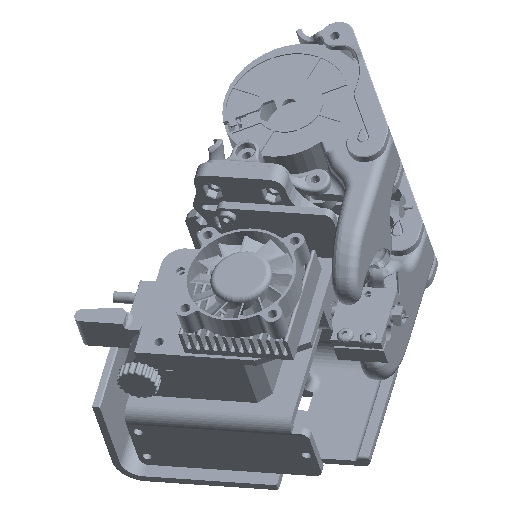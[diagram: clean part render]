
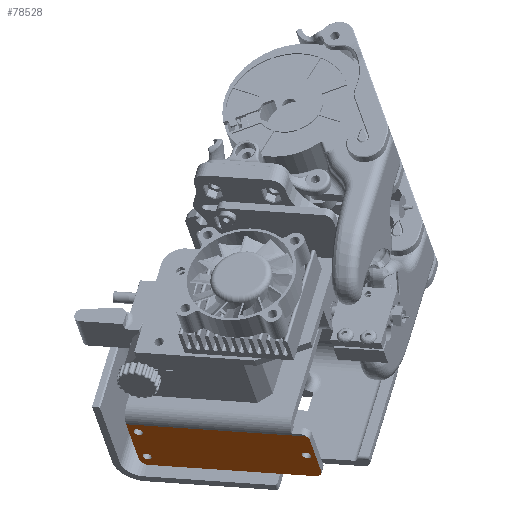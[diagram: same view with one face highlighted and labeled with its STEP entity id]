
A CAD part, left-side view. The second image highlights one B-rep face of the part: STEP entity #78528.
In plain terms, the highlighted planar face has unit normal (-0.557, 0.243, -0.794) as drawn and (0, 0, -1) by its records, which use the part's own axes.
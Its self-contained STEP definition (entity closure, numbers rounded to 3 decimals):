
#4270=FACE_BOUND('',#11160,.T.);
#4271=FACE_BOUND('',#11161,.T.);
#4272=FACE_BOUND('',#11162,.T.);
#4610=PLANE('',#83484);
#6397=FACE_OUTER_BOUND('',#11159,.T.);
#11159=EDGE_LOOP('',(#52267,#52268,#52269,#52270,#52271,#52272,#52273));
#11160=EDGE_LOOP('',(#52274));
#11161=EDGE_LOOP('',(#52275));
#11162=EDGE_LOOP('',(#52276));
#16251=LINE('',#114572,#22072);
#16253=LINE('',#114577,#22074);
#16264=LINE('',#114606,#22085);
#16265=LINE('',#114608,#22086);
#22072=VECTOR('',#91947,1.);
#22074=VECTOR('',#91951,1.);
#22085=VECTOR('',#91980,1.);
#22086=VECTOR('',#91981,1.);
#27887=CIRCLE('',#83477,1.65);
#27888=CIRCLE('',#83479,1.65);
#27889=CIRCLE('',#83481,1.65);
#27890=CIRCLE('',#83485,3.);
#27891=CIRCLE('',#83486,3.);
#27892=CIRCLE('',#83487,3.);
#32003=VERTEX_POINT('',#114568);
#32004=VERTEX_POINT('',#114570);
#32005=VERTEX_POINT('',#114574);
#32006=VERTEX_POINT('',#114576);
#32007=VERTEX_POINT('',#114580);
#32008=VERTEX_POINT('',#114584);
#32009=VERTEX_POINT('',#114588);
#32014=VERTEX_POINT('',#114604);
#32015=VERTEX_POINT('',#114605);
#32016=VERTEX_POINT('',#114607);
#39836=EDGE_CURVE('',#32004,#32003,#16251,.T.);
#39838=EDGE_CURVE('',#32006,#32005,#16253,.T.);
#39841=EDGE_CURVE('',#32007,#32007,#27887,.T.);
#39843=EDGE_CURVE('',#32008,#32008,#27888,.T.);
#39845=EDGE_CURVE('',#32009,#32009,#27889,.T.);
#39852=EDGE_CURVE('',#32014,#32015,#16264,.T.);
#39853=EDGE_CURVE('',#32016,#32015,#16265,.T.);
#39854=EDGE_CURVE('',#32003,#32016,#27890,.F.);
#39855=EDGE_CURVE('',#32006,#32004,#27891,.F.);
#39856=EDGE_CURVE('',#32014,#32005,#27892,.F.);
#52267=ORIENTED_EDGE('',*,*,#39852,.T.);
#52268=ORIENTED_EDGE('',*,*,#39853,.F.);
#52269=ORIENTED_EDGE('',*,*,#39854,.F.);
#52270=ORIENTED_EDGE('',*,*,#39836,.F.);
#52271=ORIENTED_EDGE('',*,*,#39855,.F.);
#52272=ORIENTED_EDGE('',*,*,#39838,.T.);
#52273=ORIENTED_EDGE('',*,*,#39856,.F.);
#52274=ORIENTED_EDGE('',*,*,#39841,.F.);
#52275=ORIENTED_EDGE('',*,*,#39843,.F.);
#52276=ORIENTED_EDGE('',*,*,#39845,.F.);
#78528=ADVANCED_FACE('',(#6397,#4270,#4271,#4272),#4610,.T.);
#83477=AXIS2_PLACEMENT_3D('',#114582,#91956,#91957);
#83479=AXIS2_PLACEMENT_3D('',#114586,#91961,#91962);
#83481=AXIS2_PLACEMENT_3D('',#114590,#91966,#91967);
#83484=AXIS2_PLACEMENT_3D('',#114603,#91978,#91979);
#83485=AXIS2_PLACEMENT_3D('',#114609,#91982,#91983);
#83486=AXIS2_PLACEMENT_3D('',#114610,#91984,#91985);
#83487=AXIS2_PLACEMENT_3D('',#114611,#91986,#91987);
#91947=DIRECTION('',(0.,1.,0.));
#91951=DIRECTION('',(-1.,0.,0.));
#91956=DIRECTION('center_axis',(0.,0.,-1.));
#91957=DIRECTION('ref_axis',(1.,0.,0.));
#91961=DIRECTION('center_axis',(0.,0.,-1.));
#91962=DIRECTION('ref_axis',(1.,0.,0.));
#91966=DIRECTION('center_axis',(0.,0.,-1.));
#91967=DIRECTION('ref_axis',(1.,0.,0.));
#91978=DIRECTION('center_axis',(0.,0.,-1.));
#91979=DIRECTION('ref_axis',(-1.,0.,0.));
#91980=DIRECTION('',(0.,1.,0.));
#91981=DIRECTION('',(-1.,0.,0.));
#91982=DIRECTION('center_axis',(0.,0.,-1.));
#91983=DIRECTION('ref_axis',(1.,0.,0.));
#91984=DIRECTION('center_axis',(0.,0.,-1.));
#91985=DIRECTION('ref_axis',(1.,0.,0.));
#91986=DIRECTION('center_axis',(0.,0.,-1.));
#91987=DIRECTION('ref_axis',(1.,0.,0.));
#114568=CARTESIAN_POINT('',(50.45,47.,-62.5));
#114570=CARTESIAN_POINT('',(50.45,-14.,-62.5));
#114572=CARTESIAN_POINT('',(50.45,16.5,-62.5));
#114574=CARTESIAN_POINT('',(29.45,-17.,-62.5));
#114576=CARTESIAN_POINT('',(47.45,-17.,-62.5));
#114577=CARTESIAN_POINT('',(38.45,-17.,-62.5));
#114580=CARTESIAN_POINT('',(44.152,47.291,-62.5));
#114582=CARTESIAN_POINT('Origin',(45.6,46.5,-62.5));
#114584=CARTESIAN_POINT('',(37.152,-12.859,-62.5));
#114586=CARTESIAN_POINT('Origin',(38.6,-13.65,-62.5));
#114588=CARTESIAN_POINT('',(30.152,47.291,-62.5));
#114590=CARTESIAN_POINT('Origin',(31.6,46.5,-62.5));
#114603=CARTESIAN_POINT('Origin',(50.45,0.,-62.5));
#114604=CARTESIAN_POINT('',(27.45,-16.236,-62.5));
#114605=CARTESIAN_POINT('',(27.45,50.,-62.5));
#114606=CARTESIAN_POINT('',(27.45,16.882,-62.5));
#114607=CARTESIAN_POINT('',(47.45,50.,-62.5));
#114608=CARTESIAN_POINT('',(37.45,50.,-62.5));
#114609=CARTESIAN_POINT('Origin',(47.45,47.,-62.5));
#114610=CARTESIAN_POINT('Origin',(47.45,-14.,-62.5));
#114611=CARTESIAN_POINT('Origin',(29.45,-14.,-62.5));
